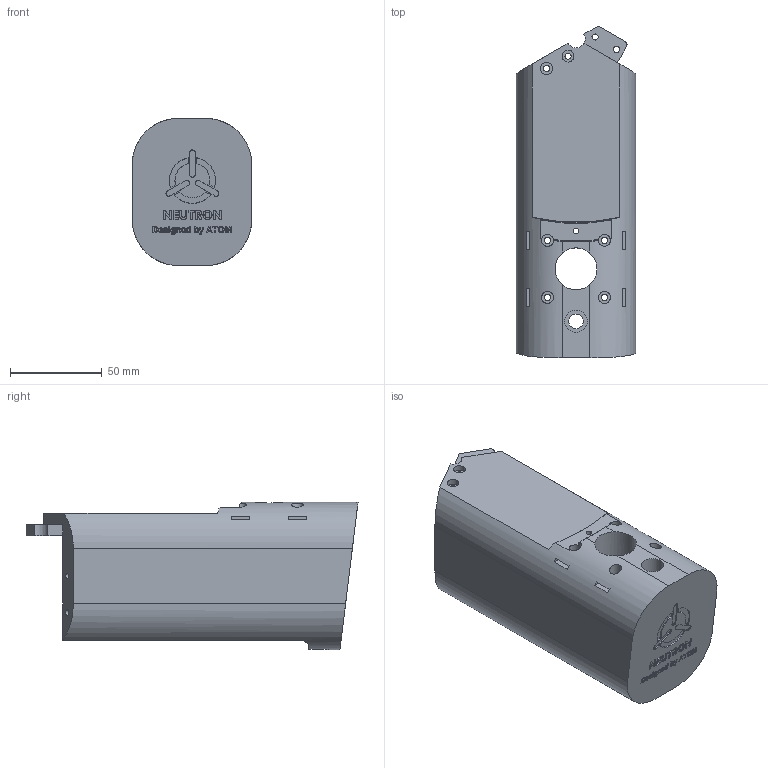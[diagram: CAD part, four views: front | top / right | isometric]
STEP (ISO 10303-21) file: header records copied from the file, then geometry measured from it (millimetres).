
FILE_DESCRIPTION( ( '' ), ' ' );
FILE_NAME( '/vol/tmp/translate-7618890640829890991/589d33af876aac0fbabf0e30.step', '2017-02-10T03:29:52', ( '' ), ( '' ), ' ', ' ', ' ' );
FILE_SCHEMA( ( 'AUTOMOTIVE_DESIGN { 1 0 10303 214 1 1 1 1 }' ) );
Length unit declared in the file: metre
Products named in the file (1): Delta Base
Bounding box: 65 x 180.59 x 80 mm (x, y, z)
Volume: 312693.7 mm3; surface area: 68779.9 mm2
Topology: 1 solids, 1 shells, 1225 faces, 3534 edges, 2355 vertices
Faces by surface type: plane 1014, extrusion 163, cylinder 40, bspline 4, cone 2, torus 2
Full cylindrical faces by diameter (mm): 3 x1, 3.3 x12, 6.5 x6, 8 x1, 12.2 x1, 22.8 x1
Entity records: 49788 total; most frequent: CARTESIAN_POINT 8455, ORIENTED_EDGE 7002, DIRECTION 5525, EDGE_CURVE 3501, VECTOR 3213, LINE 3050, VERTEX_POINT 2344, EDGE_LOOP 1329
